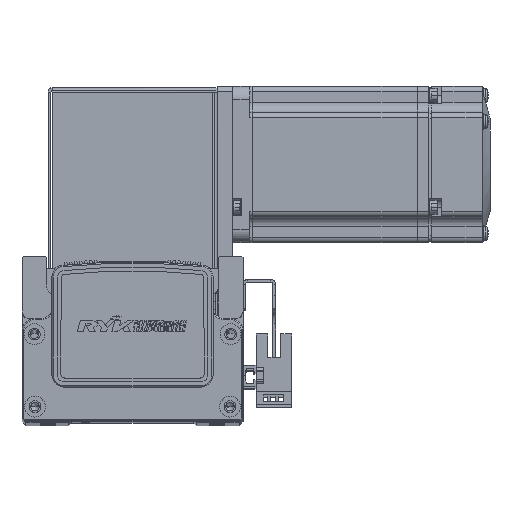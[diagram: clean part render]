
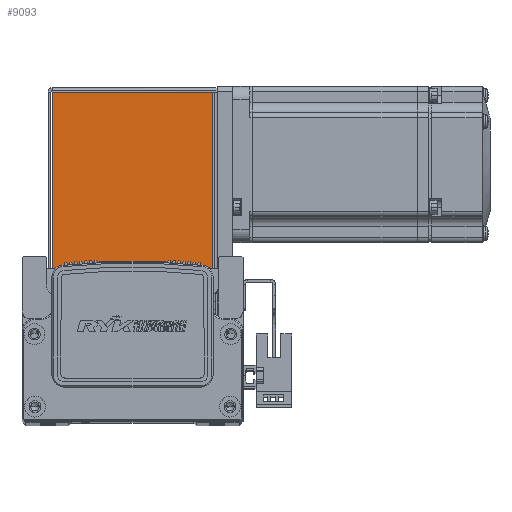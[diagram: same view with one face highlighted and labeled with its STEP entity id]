
A CAD part, top view. The second image highlights one B-rep face of the part: STEP entity #9093.
In plain terms, the highlighted planar face has unit normal (0, 0, 1) as drawn and (0, 0, -1) by its records, which use the part's own axes.
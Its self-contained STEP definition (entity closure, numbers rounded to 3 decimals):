
#7670 = ORIENTED_EDGE ( 'NONE', *, *, #23410, .F. ) ;
#7677 = ORIENTED_EDGE ( 'NONE', *, *, #23399, .T. ) ;
#7690 = ORIENTED_EDGE ( 'NONE', *, *, #23401, .T. ) ;
#7746 = ORIENTED_EDGE ( 'NONE', *, *, #23441, .T. ) ;
#9093 = ADVANCED_FACE ( 'NONE', ( #64467 ), #59240, .F. ) ;
#13806 = CARTESIAN_POINT ( 'NONE',  ( -30.793, 0., -35. ) ) ;
#13849 = DIRECTION ( 'NONE',  ( 0., 1., 0. ) ) ;
#13855 = DIRECTION ( 'NONE',  ( 1., 0., 0. ) ) ;
#13863 = DIRECTION ( 'NONE',  ( 1., 0., 0. ) ) ;
#13870 = CARTESIAN_POINT ( 'NONE',  ( 32.5, 0.737, -35. ) ) ;
#13880 = CARTESIAN_POINT ( 'NONE',  ( 0., 68.5, -35. ) ) ;
#13948 = DIRECTION ( 'NONE',  ( 0., -1., 0. ) ) ;
#13954 = CARTESIAN_POINT ( 'NONE',  ( 30.763, 68.5, -35. ) ) ;
#18542 = EDGE_LOOP ( 'NONE', ( #7746, #7670, #7677, #7690 ) ) ;
#19091 = VERTEX_POINT ( 'NONE', #42972 ) ;
#19114 = VERTEX_POINT ( 'NONE', #42920 ) ;
#19167 = VERTEX_POINT ( 'NONE', #43022 ) ;
#19198 = VERTEX_POINT ( 'NONE', #43065 ) ;
#23399 = EDGE_CURVE ( 'NONE', #19091, #19167, #46689, .T. ) ;
#23401 = EDGE_CURVE ( 'NONE', #19167, #19114, #46692, .T. ) ;
#23410 = EDGE_CURVE ( 'NONE', #19091, #19198, #46649, .T. ) ;
#23441 = EDGE_CURVE ( 'NONE', #19114, #19198, #46719, .T. ) ;
#31506 = AXIS2_PLACEMENT_3D ( 'NONE', #59269, #59261, #59268 ) ;
#42920 = CARTESIAN_POINT ( 'NONE',  ( 30.763, 68.5, -35. ) ) ;
#42972 = CARTESIAN_POINT ( 'NONE',  ( -30.793, 0.737, -35. ) ) ;
#43022 = CARTESIAN_POINT ( 'NONE',  ( -30.793, 68.5, -35. ) ) ;
#43065 = CARTESIAN_POINT ( 'NONE',  ( 30.763, 0.737, -35. ) ) ;
#46645 = VECTOR ( 'NONE', #13849, 1000. ) ;
#46649 = LINE ( 'NONE', #13870, #46655 ) ;
#46655 = VECTOR ( 'NONE', #13863, 1000. ) ;
#46689 = LINE ( 'NONE', #13806, #46645 ) ;
#46692 = LINE ( 'NONE', #13880, #46693 ) ;
#46693 = VECTOR ( 'NONE', #13855, 1000. ) ;
#46719 = LINE ( 'NONE', #13954, #46741 ) ;
#46741 = VECTOR ( 'NONE', #13948, 1000. ) ;
#59240 = PLANE ( 'NONE',  #31506 ) ;
#59261 = DIRECTION ( 'NONE',  ( 0., 0., 1. ) ) ;
#59268 = DIRECTION ( 'NONE',  ( 0., -1., 0. ) ) ;
#59269 = CARTESIAN_POINT ( 'NONE',  ( 0., 0., -35. ) ) ;
#64467 = FACE_OUTER_BOUND ( 'NONE', #18542, .T. ) ;
